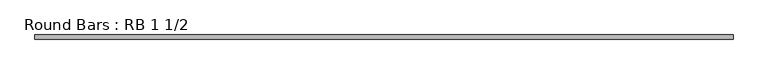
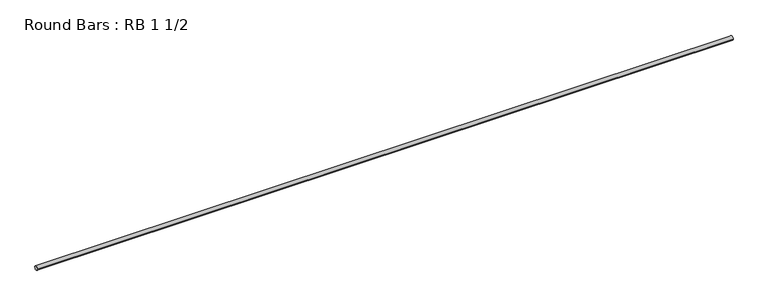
"""IFC4 building model written with IfcOpenShell, lengths in millimetres: member geometry, Round Bars : RB 1 1/2."""

from ifc_helpers import new_model, si_unit, point, frame, origin, origin_2d, place, context, project, spatial, circle_curve, trimmed, segment, composite_curve, outline, extrude, source, transform, mapped, element, save


def round_bars_rb_1_1_2_fd4b45b6(model_context):
    return source(origin(), model_context, "Body", "SweptSolid", [
        extrude(outline(composite_curve([segment(trimmed(circle_curve(origin_2d(), 19.05), [point((19.05, 0.0))], [point((-19.05, 0.0))], False, "CARTESIAN"), True, "CONTINUOUS"), segment(trimmed(circle_curve(origin_2d(), 19.05), [point((-19.05, 0.0))], [point((19.05, 0.0))], False, "CARTESIAN"), True, "CONTINUOUS")], self_intersect=False)), frame((-3129.7351745, 0.0, 0.0), z_axis=(1.0, 0.0, 0.0), x_axis=(0.0, 1.0, 0.0)), (0.0, 0.0, 1.0), 6497.1009039),
    ])


if __name__ == "__main__":
    model = new_model("IFC4")
    model_context = context("Model", 3, world=origin())
    ifc_project = project(units=[si_unit("LENGTHUNIT", "METRE", prefix="MILLI")], contexts=[model_context])
    site = spatial("IfcSite", under=ifc_project)
    building = spatial("IfcBuilding", under=site)
    placement = place(None, origin())
    round_bars_rb_1_1_2_shape = round_bars_rb_1_1_2_fd4b45b6(model_context)
    element("IfcMember", 1, ObjectType="Round Bars : RB 1 1/2", at=placement, inside=building, context=model_context, shape_type="MappedRepresentation", body=[
        mapped(round_bars_rb_1_1_2_shape, transform((0.0, 0.0, 0.0), x_axis=(1.0, 0.0, 0.0), y_axis=(0.0, 1.0, 0.0), z_axis=(0.0, 0.0, 1.0))),
    ])
    save(model, "model.ifc")
